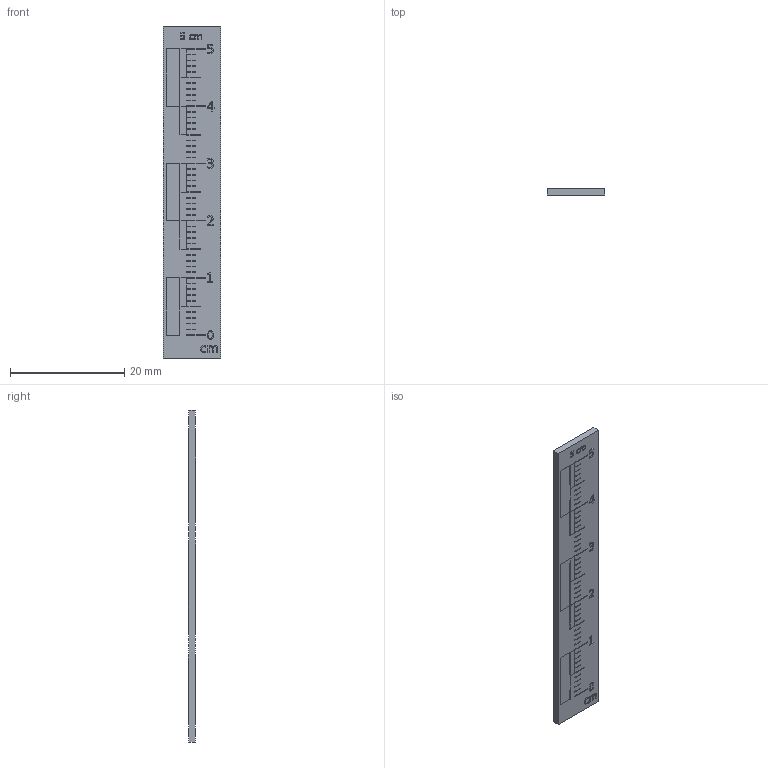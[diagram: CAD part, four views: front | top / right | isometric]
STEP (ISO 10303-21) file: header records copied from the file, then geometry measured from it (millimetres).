
FILE_DESCRIPTION(('Open CASCADE Model'),'2;1');
FILE_NAME('Open CASCADE Shape Model','2026-11-25T00:46:56',('Author'),( 'Open CASCADE'),'Open CASCADE STEP processor 7.8','Open CASCADE 7.8' ,'Unknown');
FILE_SCHEMA(('AUTOMOTIVE_DESIGN { 1 0 10303 214 1 1 1 1 }'));
Length unit declared in the file: millimetre
Products named in the file (142): Open CASCADE STEP translator 7.8 1; Open CASCADE STEP translator 7.8 1.1; Open CASCADE STEP translator 7.8 1.2; Open CASCADE STEP translator 7.8 1.3; Open CASCADE STEP translator 7.8 1.4; Open CASCADE STEP translator 7.8 1.5; Open CASCADE STEP translator 7.8 1.6; Open CASCADE STEP translator 7.8 1.7; Open CASCADE STEP translator 7.8 1.8; Open CASCADE STEP translator 7.8 1.9; Open CASCADE STEP translator 7.8 1.10; Open CASCADE STEP translator 7.8 1.11; Open CASCADE STEP translator 7.8 1.12; Open CASCADE STEP translator 7.8 1.13; Open CASCADE STEP translator 7.8 1.14; Open CASCADE STEP translator 7.8 1.15; Open CASCADE STEP translator 7.8 1.16; Open CASCADE STEP translator 7.8 1.17; Open CASCADE STEP translator 7.8 1.18; Open CASCADE STEP translator 7.8 1.19; Open CASCADE STEP translator 7.8 1.20; Open CASCADE STEP translator 7.8 1.21; Open CASCADE STEP translator 7.8 1.22; Open CASCADE STEP translator 7.8 1.23; Open CASCADE STEP translator 7.8 1.24; Open CASCADE STEP translator 7.8 1.25; Open CASCADE STEP translator 7.8 1.26; Open CASCADE STEP translator 7.8 1.27; Open CASCADE STEP translator 7.8 1.28; Open CASCADE STEP translator 7.8 1.29; Open CASCADE STEP translator 7.8 1.30; Open CASCADE STEP translator 7.8 1.31; Open CASCADE STEP translator 7.8 1.32; Open CASCADE STEP translator 7.8 1.33; Open CASCADE STEP translator 7.8 1.34; Open CASCADE STEP translator 7.8 1.35; Open CASCADE STEP translator 7.8 1.36; Open CASCADE STEP translator 7.8 1.37; Open CASCADE STEP translator 7.8 1.38; Open CASCADE STEP translator 7.8 1.39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
Assembly tree (141 placements, depth 2):
  Open CASCADE STEP translator 7.8 1
    Open CASCADE STEP translator 7.8 1.1
    Open CASCADE STEP translator 7.8 1.2
    Open CASCADE STEP translator 7.8 1.3
    Open CASCADE STEP translator 7.8 1.4
    Open CASCADE STEP translator 7.8 1.5
    Open CASCADE STEP translator 7.8 1.6
    Open CASCADE STEP translator 7.8 1.7
    Open CASCADE STEP translator 7.8 1.8
    Open CASCADE STEP translator 7.8 1.9
    Open CASCADE STEP translator 7.8 1.10
    Open CASCADE STEP translator 7.8 1.11
    Open CASCADE STEP translator 7.8 1.12
    Open CASCADE STEP translator 7.8 1.13
    Open CASCADE STEP translator 7.8 1.14
    Open CASCADE STEP translator 7.8 1.15
    Open CASCADE STEP translator 7.8 1.16
    Open CASCADE STEP translator 7.8 1.17
    Open CASCADE STEP translator 7.8 1.18
    Open CASCADE STEP translator 7.8 1.19
    Open CASCADE STEP translator 7.8 1.20
    Open CASCADE STEP translator 7.8 1.21
    Open CASCADE STEP translator 7.8 1.22
    Open CASCADE STEP translator 7.8 1.23
    Open CASCADE STEP translator 7.8 1.24
    Open CASCADE STEP translator 7.8 1.25
    Open CASCADE STEP translator 7.8 1.26
    Open CASCADE STEP translator 7.8 1.27
    Open CASCADE STEP translator 7.8 1.28
    Open CASCADE STEP translator 7.8 1.29
    Open CASCADE STEP translator 7.8 1.30
    Open CASCADE STEP translator 7.8 1.31
    Open CASCADE STEP translator 7.8 1.32
    Open CASCADE STEP translator 7.8 1.33
    Open CASCADE STEP translator 7.8 1.34
    Open CASCADE STEP translator 7.8 1.35
    Open CASCADE STEP translator 7.8 1.36
    Open CASCADE STEP translator 7.8 1.37
    Open CASCADE STEP translator 7.8 1.38
    Open CASCADE STEP translator 7.8 1.39
    Open CASCADE STEP translator 7.8 1.40
    Open CASCADE STEP translator 7.8 1.41
    Open CASCADE STEP translator 7.8 1.42
    Open CASCADE STEP translator 7.8 1.43
    Open CASCADE STEP translator 7.8 1.44
    Open CASCADE STEP translator 7.8 1.45
    Open CASCADE STEP translator 7.8 1.46
    Open CASCADE STEP translator 7.8 1.47
    Open CASCADE STEP translator 7.8 1.48
    Open CASCADE STEP translator 7.8 1.49
    Open CASCADE STEP translator 7.8 1.50
    Open CASCADE STEP translator 7.8 1.51
    Open CASCADE STEP translator 7.8 1.52
    Open CASCADE STEP translator 7.8 1.53
    Open CASCADE STEP translator 7.8 1.54
    Open CASCADE STEP translator 7.8 1.55
    Open CASCADE STEP translator 7.8 1.56
    Open CASCADE STEP translator 7.8 1.57
    Open CASCADE STEP translator 7.8 1.58
    Open CASCADE STEP translator 7.8 1.59
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Bounding box: 10 x 1.24 x 58 mm (x, y, z)
Volume: 700.8 mm3; surface area: 1817.1 mm2
Topology: 141 solids, 141 shells, 1512 faces, 3690 edges, 2460 vertices
Faces by surface type: plane 1512
Entity records: 93668 total; most frequent: CARTESIAN_POINT 15184, DIRECTION 14378, LINE 11070, VECTOR 11070, ORIENTED_EDGE 7380, PCURVE 7380, DEFINITIONAL_REPRESENTATION 7380, EDGE_CURVE 3690
